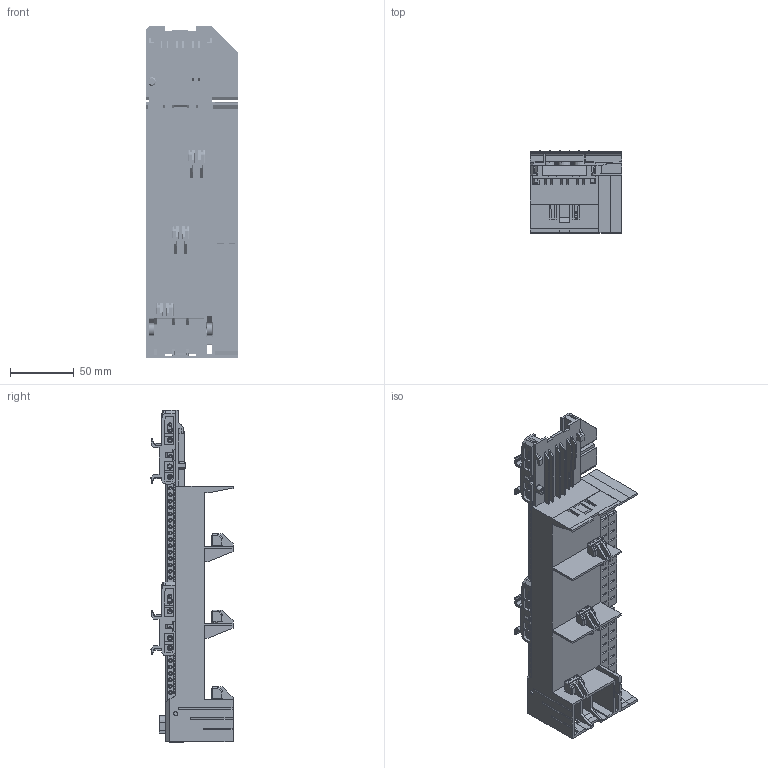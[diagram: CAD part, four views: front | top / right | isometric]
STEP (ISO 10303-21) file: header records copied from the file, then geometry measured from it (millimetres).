
FILE_DESCRIPTION (( 'STEP AP203' ), '1' );
FILE_NAME ('55337.STEP', '2021-08-18T07:01:52', ( '' ), ( '' ), 'SwSTEP 2.0', 'SolidWorks 2017', '' );
FILE_SCHEMA (( 'CONFIG_CONTROL_DESIGN' ));
Products named in the file (2): 55337
Bounding box: 72.05 x 64.3 x 260.2 mm (x, y, z)
Volume: 381221.2 mm3; surface area: 169126.4 mm2
Topology: 11 solids, 18 shells, 4011 faces, 11359 edges, 7591 vertices
Faces by surface type: plane 2859, cylinder 799, cone 234, bspline 116, torus 3
Full cylindrical faces by diameter (mm): 1.988 x176, 2.584 x1, 2.982 x14, 3.479 x8, 5 x36, 5.169 x2, 5.964 x11
Entity records: 180730 total; most frequent: CARTESIAN_POINT 83478, ORIENTED_EDGE 21366, DIRECTION 17296, EDGE_CURVE 10683, VERTEX_POINT 7373, LINE 7146, VECTOR 7146, AXIS2_PLACEMENT_3D 5075
